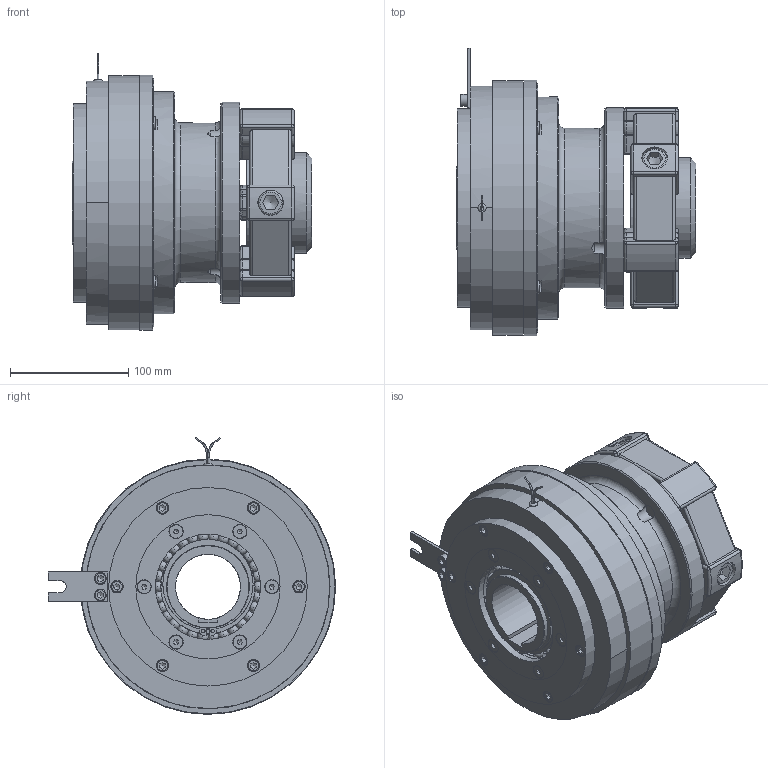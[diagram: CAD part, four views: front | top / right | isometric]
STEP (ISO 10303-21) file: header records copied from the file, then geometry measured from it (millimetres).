
FILE_DESCRIPTION(/* description */ (''),/* implementation_level */ '2;1');
FILE_NAME(/* name */ 'X:\INVENTOR\DISEGNI\08_Freni_Friz_Elettmag_Monodisco\08_26 EMSL_DF\EMSL_DF STEP\08_26_210_51 EMSL210_DF-GE@STEP.stp',/* time_stamp */ '2018-04-24T10:15:58+02:00',/* author */ ('stefano'),/* organization */ (''),/* preprocessor_version */ 'ST-DEVELOPER v17',/* originating_system */ 'Autodesk Inventor 2018',/* authorisation */ '');
FILE_SCHEMA (('AUTOMOTIVE_DESIGN { 1 0 10303 214 3 1 1 }'));
Products named in the file (1): 08_26_210_51 EMSL210_DF-GE_Substitute_1
Bounding box: 203 x 243 x 234.22 mm (x, y, z)
Volume: 3330532.7 mm3; surface area: 597302.1 mm2
Topology: 1 solids, 1 shells, 1238 faces, 3773 edges, 2471 vertices
Faces by surface type: plane 414, cylinder 393, torus 240, sphere 102, cone 87, bspline 2
Full cylindrical faces by diameter (mm): 1.154 x2, 1.5 x1, 2 x4, 3 x2, 3.5 x2, 4.917 x8, 6.647 x4, 7 x4, 7.1 x4, 10 x16, 10.5 x6, 11 x4, 11.34 x6, 11.835 x6, 12 x6, 13 x8, 21 x6, 21.5 x6, 67 x2, 70 x5, 79.6 x4, 82 x1, 82.8 x4, 85 x1, 89 x1, 90.4 x4, 92 x1, 96 x1, 97.2 x4, 110 x4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
Entity records: 48642 total; most frequent: CARTESIAN_POINT 14517, ORIENTED_EDGE 7164, DIRECTION 7088, EDGE_CURVE 3582, AXIS2_PLACEMENT_3D 3027, VERTEX_POINT 2471, CIRCLE 1790, EDGE_LOOP 1551
